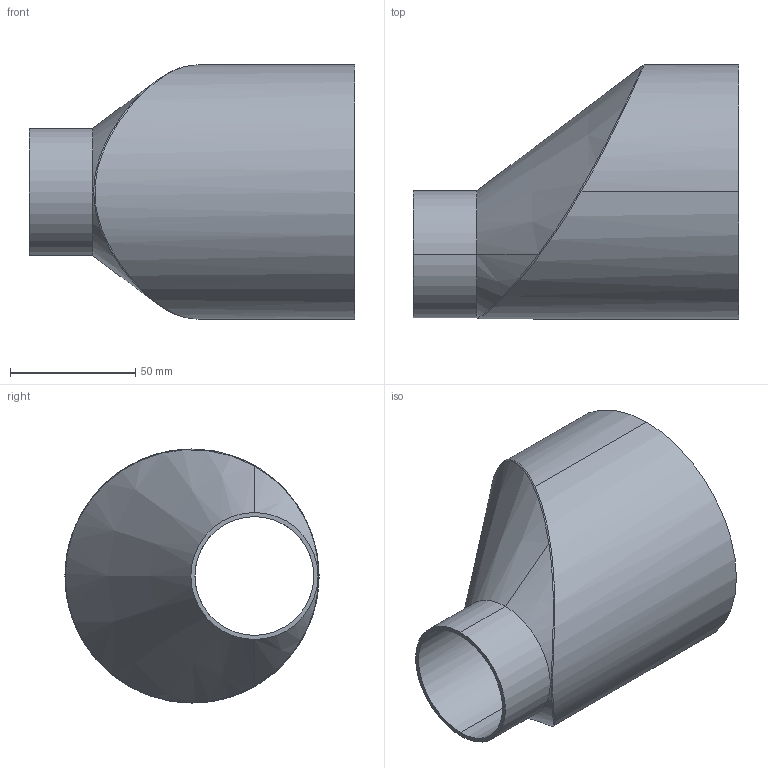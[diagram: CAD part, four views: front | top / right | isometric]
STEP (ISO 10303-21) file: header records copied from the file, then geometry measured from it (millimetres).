
FILE_DESCRIPTION (( 'STEP AP214' ), '1' );
FILE_NAME ('TE32SWW6L4.0x2.0-...STEP', '2016-06-01T08:29:01', ( 'eran' ), ( '' ), 'SwSTEP 2.0', 'SolidWorks 2016', '' );
FILE_SCHEMA (( 'AUTOMOTIVE_DESIGN' ));
Length unit declared in the file: millimetre
Products named in the file (1): TE32SWW6L4.0x2.0-..
Bounding box: 130.18 x 101.6 x 101.6 mm (x, y, z)
Volume: 264887.9 mm3; surface area: 64592.3 mm2
Topology: 1 solids, 1 shells, 26 faces, 61 edges, 35 vertices
Faces by surface type: cylinder 11, cone 7, bspline 4, torus 2, plane 2
Entity records: 1776 total; most frequent: CARTESIAN_POINT 1195, ORIENTED_EDGE 118, DIRECTION 107, EDGE_CURVE 59, AXIS2_PLACEMENT_3D 46, VERTEX_POINT 35, EDGE_LOOP 28, ADVANCED_FACE 26
